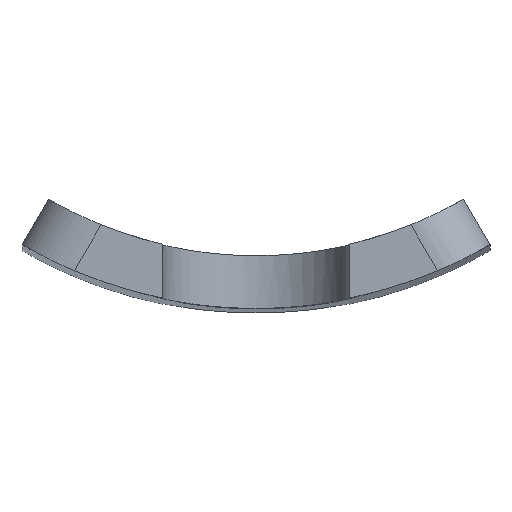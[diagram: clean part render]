
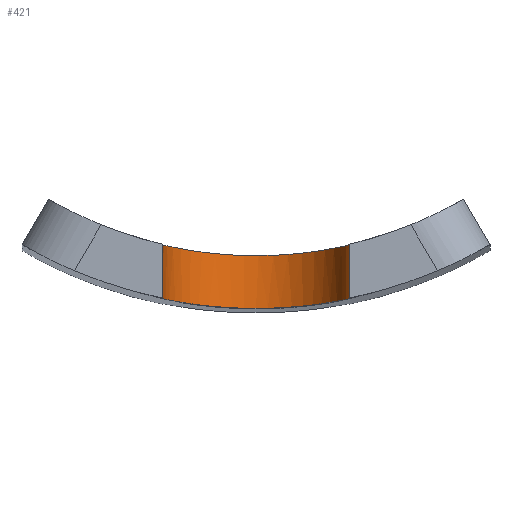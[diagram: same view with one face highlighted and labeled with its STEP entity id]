
A CAD part, top view. The second image highlights one B-rep face of the part: STEP entity #421.
In plain terms, the highlighted cylindrical face has radius 16 mm (diameter 32 mm), a partial arc.
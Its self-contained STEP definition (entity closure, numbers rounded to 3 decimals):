
#53=FACE_OUTER_BOUND('',#77,.T.);
#77=EDGE_LOOP('',(#377,#378,#379,#380,#381));
#109=LINE('',#1027,#139);
#110=LINE('',#1029,#140);
#139=VECTOR('',#549,10.);
#140=VECTOR('',#552,10.);
#147=B_SPLINE_CURVE_WITH_KNOTS('',3,(#681,#682,#683,#684,#685,#686,#687,
#688,#689,#690,#691,#692,#693,#694,#695,#696,#697,#698,#699,#700,#701,#702,
#703,#704,#705,#706,#707,#708,#709,#710,#711,#712,#713,#714),
 .UNSPECIFIED.,.F.,.F.,(4,2,2,2,2,2,2,2,2,2,2,2,2,2,2,2,4),(4.84,
5.142,5.445,5.747,6.05,6.352,
6.655,6.957,7.26,7.562,7.865,
8.167,8.47,8.772,9.075,9.377,
9.68),.UNSPECIFIED.);
#153=B_SPLINE_CURVE_WITH_KNOTS('',3,(#815,#816,#817,#818,#819,#820,#821,
#822,#823,#824,#825,#826,#827,#828,#829,#830,#831,#832),.UNSPECIFIED.,.F.,
 .F.,(4,2,2,2,2,2,2,2,4),(9.672,9.974,10.276,
10.578,10.881,11.183,11.485,11.787,
12.09),.UNSPECIFIED.);
#154=B_SPLINE_CURVE_WITH_KNOTS('',3,(#834,#835,#836,#837,#838,#839,#840,
#841,#842,#843,#844,#845,#846,#847,#848,#849,#850,#851),.UNSPECIFIED.,.F.,
 .F.,(4,2,2,2,2,2,2,2,4),(2.418,2.72,3.022,
3.325,3.627,3.929,4.231,4.534,
4.836),.UNSPECIFIED.);
#182=VERTEX_POINT('',#678);
#183=VERTEX_POINT('',#680);
#191=VERTEX_POINT('',#812);
#192=VERTEX_POINT('',#814);
#193=VERTEX_POINT('',#833);
#228=EDGE_CURVE('',#182,#183,#147,.T.);
#240=EDGE_CURVE('',#191,#192,#153,.T.);
#241=EDGE_CURVE('',#192,#193,#154,.T.);
#269=EDGE_CURVE('',#183,#191,#109,.T.);
#270=EDGE_CURVE('',#182,#193,#110,.T.);
#377=ORIENTED_EDGE('',*,*,#269,.F.);
#378=ORIENTED_EDGE('',*,*,#228,.F.);
#379=ORIENTED_EDGE('',*,*,#270,.T.);
#380=ORIENTED_EDGE('',*,*,#241,.F.);
#381=ORIENTED_EDGE('',*,*,#240,.F.);
#403=CYLINDRICAL_SURFACE('',#469,16.);
#421=ADVANCED_FACE('',(#53),#403,.F.);
#469=AXIS2_PLACEMENT_3D('',#1030,#553,#554);
#549=DIRECTION('',(0.,-1.,0.));
#552=DIRECTION('',(0.,-1.,0.));
#553=DIRECTION('center_axis',(0.,1.,0.));
#554=DIRECTION('ref_axis',(1.,0.,0.));
#678=CARTESIAN_POINT('',(6.5,-43.745,-58.));
#680=CARTESIAN_POINT('',(38.5,-43.745,-58.));
#681=CARTESIAN_POINT('Ctrl Pts',(6.5,-43.745,-58.));
#682=CARTESIAN_POINT('Ctrl Pts',(6.5,-43.745,-59.008));
#683=CARTESIAN_POINT('Ctrl Pts',(6.597,-43.768,-60.05));
#684=CARTESIAN_POINT('Ctrl Pts',(7.004,-43.861,-62.12));
#685=CARTESIAN_POINT('Ctrl Pts',(7.313,-43.931,-63.148));
#686=CARTESIAN_POINT('Ctrl Pts',(8.131,-44.106,-65.118));
#687=CARTESIAN_POINT('Ctrl Pts',(8.639,-44.211,-66.061));
#688=CARTESIAN_POINT('Ctrl Pts',(9.813,-44.436,-67.805));
#689=CARTESIAN_POINT('Ctrl Pts',(10.478,-44.556,-68.605));
#690=CARTESIAN_POINT('Ctrl Pts',(11.895,-44.786,-70.022));
#691=CARTESIAN_POINT('Ctrl Pts',(12.695,-44.905,-70.687));
#692=CARTESIAN_POINT('Ctrl Pts',(14.439,-45.128,-71.861));
#693=CARTESIAN_POINT('Ctrl Pts',(15.382,-45.231,-72.369));
#694=CARTESIAN_POINT('Ctrl Pts',(17.352,-45.403,-73.187));
#695=CARTESIAN_POINT('Ctrl Pts',(18.38,-45.472,-73.497));
#696=CARTESIAN_POINT('Ctrl Pts',(20.45,-45.562,-73.903));
#697=CARTESIAN_POINT('Ctrl Pts',(21.492,-45.585,-74.));
#698=CARTESIAN_POINT('Ctrl Pts',(23.508,-45.585,-74.));
#699=CARTESIAN_POINT('Ctrl Pts',(24.55,-45.562,-73.903));
#700=CARTESIAN_POINT('Ctrl Pts',(26.62,-45.472,-73.497));
#701=CARTESIAN_POINT('Ctrl Pts',(27.648,-45.403,-73.187));
#702=CARTESIAN_POINT('Ctrl Pts',(29.618,-45.231,-72.369));
#703=CARTESIAN_POINT('Ctrl Pts',(30.561,-45.128,-71.861));
#704=CARTESIAN_POINT('Ctrl Pts',(32.305,-44.905,-70.687));
#705=CARTESIAN_POINT('Ctrl Pts',(33.105,-44.786,-70.022));
#706=CARTESIAN_POINT('Ctrl Pts',(34.522,-44.556,-68.605));
#707=CARTESIAN_POINT('Ctrl Pts',(35.187,-44.436,-67.805));
#708=CARTESIAN_POINT('Ctrl Pts',(36.361,-44.211,-66.061));
#709=CARTESIAN_POINT('Ctrl Pts',(36.869,-44.106,-65.118));
#710=CARTESIAN_POINT('Ctrl Pts',(37.687,-43.931,-63.148));
#711=CARTESIAN_POINT('Ctrl Pts',(37.996,-43.861,-62.12));
#712=CARTESIAN_POINT('Ctrl Pts',(38.403,-43.768,-60.05));
#713=CARTESIAN_POINT('Ctrl Pts',(38.5,-43.745,-59.008));
#714=CARTESIAN_POINT('Ctrl Pts',(38.5,-43.745,-58.));
#812=CARTESIAN_POINT('',(38.5,-52.958,-58.));
#814=CARTESIAN_POINT('',(22.5,-54.585,-74.));
#815=CARTESIAN_POINT('Ctrl Pts',(38.5,-52.958,-58.));
#816=CARTESIAN_POINT('Ctrl Pts',(38.5,-52.958,-59.007));
#817=CARTESIAN_POINT('Ctrl Pts',(38.403,-52.978,-60.048));
#818=CARTESIAN_POINT('Ctrl Pts',(37.997,-53.06,-62.117));
#819=CARTESIAN_POINT('Ctrl Pts',(37.688,-53.122,-63.145));
#820=CARTESIAN_POINT('Ctrl Pts',(36.87,-53.276,-65.116));
#821=CARTESIAN_POINT('Ctrl Pts',(36.362,-53.369,-66.059));
#822=CARTESIAN_POINT('Ctrl Pts',(35.188,-53.568,-67.804));
#823=CARTESIAN_POINT('Ctrl Pts',(34.522,-53.674,-68.605));
#824=CARTESIAN_POINT('Ctrl Pts',(33.105,-53.877,-70.022));
#825=CARTESIAN_POINT('Ctrl Pts',(32.304,-53.983,-70.688));
#826=CARTESIAN_POINT('Ctrl Pts',(30.56,-54.18,-71.862));
#827=CARTESIAN_POINT('Ctrl Pts',(29.616,-54.272,-72.37));
#828=CARTESIAN_POINT('Ctrl Pts',(27.645,-54.424,-73.188));
#829=CARTESIAN_POINT('Ctrl Pts',(26.617,-54.485,-73.497));
#830=CARTESIAN_POINT('Ctrl Pts',(24.548,-54.565,-73.903));
#831=CARTESIAN_POINT('Ctrl Pts',(23.507,-54.585,-74.));
#832=CARTESIAN_POINT('Ctrl Pts',(22.5,-54.585,-74.));
#833=CARTESIAN_POINT('',(6.5,-52.958,-58.));
#834=CARTESIAN_POINT('Ctrl Pts',(22.5,-54.585,-74.));
#835=CARTESIAN_POINT('Ctrl Pts',(21.493,-54.585,-74.));
#836=CARTESIAN_POINT('Ctrl Pts',(20.452,-54.565,-73.903));
#837=CARTESIAN_POINT('Ctrl Pts',(18.383,-54.485,-73.497));
#838=CARTESIAN_POINT('Ctrl Pts',(17.355,-54.424,-73.188));
#839=CARTESIAN_POINT('Ctrl Pts',(15.384,-54.272,-72.37));
#840=CARTESIAN_POINT('Ctrl Pts',(14.44,-54.18,-71.862));
#841=CARTESIAN_POINT('Ctrl Pts',(12.696,-53.983,-70.688));
#842=CARTESIAN_POINT('Ctrl Pts',(11.895,-53.877,-70.022));
#843=CARTESIAN_POINT('Ctrl Pts',(10.478,-53.674,-68.605));
#844=CARTESIAN_POINT('Ctrl Pts',(9.812,-53.568,-67.804));
#845=CARTESIAN_POINT('Ctrl Pts',(8.638,-53.369,-66.059));
#846=CARTESIAN_POINT('Ctrl Pts',(8.13,-53.276,-65.116));
#847=CARTESIAN_POINT('Ctrl Pts',(7.312,-53.122,-63.145));
#848=CARTESIAN_POINT('Ctrl Pts',(7.003,-53.06,-62.117));
#849=CARTESIAN_POINT('Ctrl Pts',(6.597,-52.978,-60.048));
#850=CARTESIAN_POINT('Ctrl Pts',(6.5,-52.958,-59.007));
#851=CARTESIAN_POINT('Ctrl Pts',(6.5,-52.958,-58.));
#1027=CARTESIAN_POINT('',(38.5,-54.585,-58.));
#1029=CARTESIAN_POINT('',(6.5,-54.585,-58.));
#1030=CARTESIAN_POINT('Origin',(22.5,-54.585,-58.));
